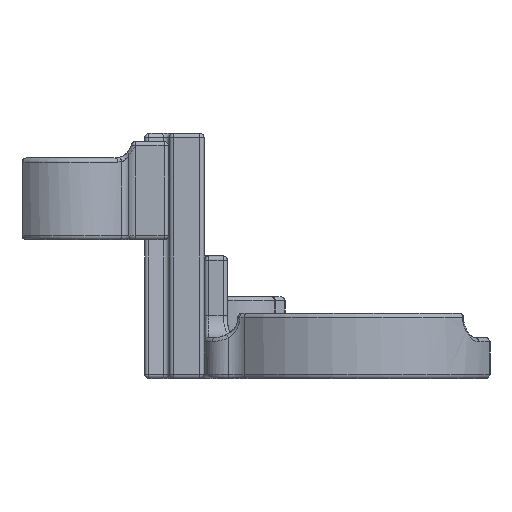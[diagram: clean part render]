
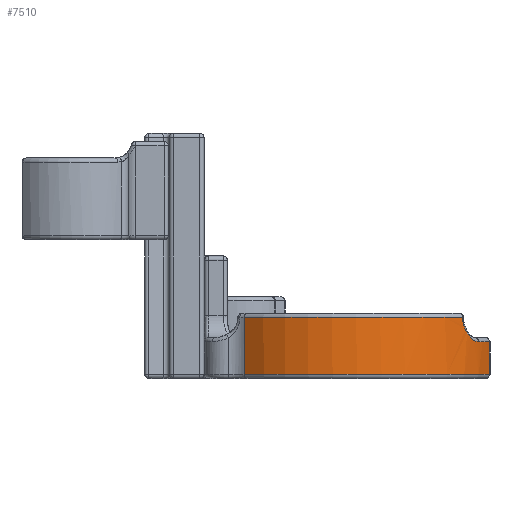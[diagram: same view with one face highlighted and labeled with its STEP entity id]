
A CAD part, left-side view. The second image highlights one B-rep face of the part: STEP entity #7510.
In plain terms, the highlighted cylindrical face has radius 18.7 mm (diameter 37.4 mm), a partial arc.
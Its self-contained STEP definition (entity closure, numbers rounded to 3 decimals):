
#262=B_SPLINE_CURVE_WITH_KNOTS('',3,(#13211,#13212,#13213,#13214,#13215),
 .UNSPECIFIED.,.F.,.F.,(4,1,4),(-0.489,-0.21,0.),
 .UNSPECIFIED.);
#402=LINE('',#13207,#778);
#403=LINE('',#13218,#779);
#778=VECTOR('',#9662,10.);
#779=VECTOR('',#9667,3.);
#1117=CYLINDRICAL_SURFACE('',#8237,18.7);
#1488=FACE_OUTER_BOUND('',#2040,.T.);
#2040=EDGE_LOOP('',(#5403,#5404,#5405,#5406,#5407,#5408));
#2635=CIRCLE('',#8233,18.7);
#2638=CIRCLE('',#8238,18.7);
#2639=CIRCLE('',#8239,18.7);
#3347=VERTEX_POINT('',#13180);
#3348=VERTEX_POINT('',#13184);
#3349=VERTEX_POINT('',#13206);
#3350=VERTEX_POINT('',#13208);
#3351=VERTEX_POINT('',#13210);
#3352=VERTEX_POINT('',#13216);
#4067=EDGE_CURVE('',#3347,#3348,#2635,.T.);
#4070=EDGE_CURVE('',#3349,#3347,#402,.T.);
#4071=EDGE_CURVE('',#3350,#3349,#2638,.T.);
#4072=EDGE_CURVE('',#3351,#3350,#262,.T.);
#4073=EDGE_CURVE('',#3352,#3351,#2639,.T.);
#4074=EDGE_CURVE('',#3348,#3352,#403,.T.);
#5403=ORIENTED_EDGE('',*,*,#4067,.F.);
#5404=ORIENTED_EDGE('',*,*,#4070,.F.);
#5405=ORIENTED_EDGE('',*,*,#4071,.F.);
#5406=ORIENTED_EDGE('',*,*,#4072,.F.);
#5407=ORIENTED_EDGE('',*,*,#4073,.F.);
#5408=ORIENTED_EDGE('',*,*,#4074,.F.);
#7510=ADVANCED_FACE('',(#1488),#1117,.T.);
#8233=AXIS2_PLACEMENT_3D('',#13186,#9652,#9653);
#8237=AXIS2_PLACEMENT_3D('',#13205,#9660,#9661);
#8238=AXIS2_PLACEMENT_3D('',#13209,#9663,#9664);
#8239=AXIS2_PLACEMENT_3D('',#13217,#9665,#9666);
#9652=DIRECTION('center_axis',(0.,0.,
-1.));
#9653=DIRECTION('ref_axis',(-0.975,-0.224,0.));
#9660=DIRECTION('center_axis',(0.,0.,
1.));
#9661=DIRECTION('ref_axis',(-1.,0.,0.));
#9662=DIRECTION('',(0.,0.,-1.));
#9663=DIRECTION('center_axis',(0.,0.,
1.));
#9664=DIRECTION('ref_axis',(-0.444,-0.896,0.));
#9665=DIRECTION('center_axis',(0.,0.,
1.));
#9666=DIRECTION('ref_axis',(-0.998,-0.069,0.));
#9667=DIRECTION('',(0.,0.,1.));
#13180=CARTESIAN_POINT('',(-10.026,20.082,0.5));
#13184=CARTESIAN_POINT('',(-16.911,50.097,0.5));
#13186=CARTESIAN_POINT('Origin',(-3.125,37.462,0.5));
#13205=CARTESIAN_POINT('Origin',(-3.125,37.462,5.));
#13206=CARTESIAN_POINT('',(-10.026,20.082,4.5));
#13207=CARTESIAN_POINT('',(-10.026,20.082,5.));
#13208=CARTESIAN_POINT('',(-12.699,21.399,4.5));
#13209=CARTESIAN_POINT('Origin',(-3.125,37.462,4.5));
#13210=CARTESIAN_POINT('',(-15.435,23.386,7.5));
#13211=CARTESIAN_POINT('Ctrl Pts',(-15.435,23.386,7.5));
#13212=CARTESIAN_POINT('Ctrl Pts',(-15.369,23.328,6.572));
#13213=CARTESIAN_POINT('Ctrl Pts',(-14.698,22.724,5.028));
#13214=CARTESIAN_POINT('Ctrl Pts',(-13.316,21.767,4.5));
#13215=CARTESIAN_POINT('Ctrl Pts',(-12.699,21.399,4.5));
#13216=CARTESIAN_POINT('',(-16.911,50.097,7.5));
#13217=CARTESIAN_POINT('Origin',(-3.125,37.462,7.5));
#13218=CARTESIAN_POINT('',(-16.911,50.097,5.));
